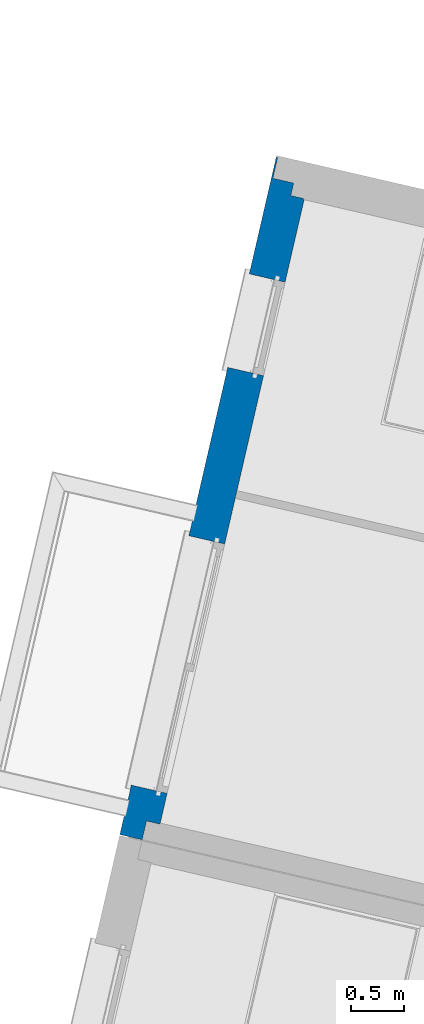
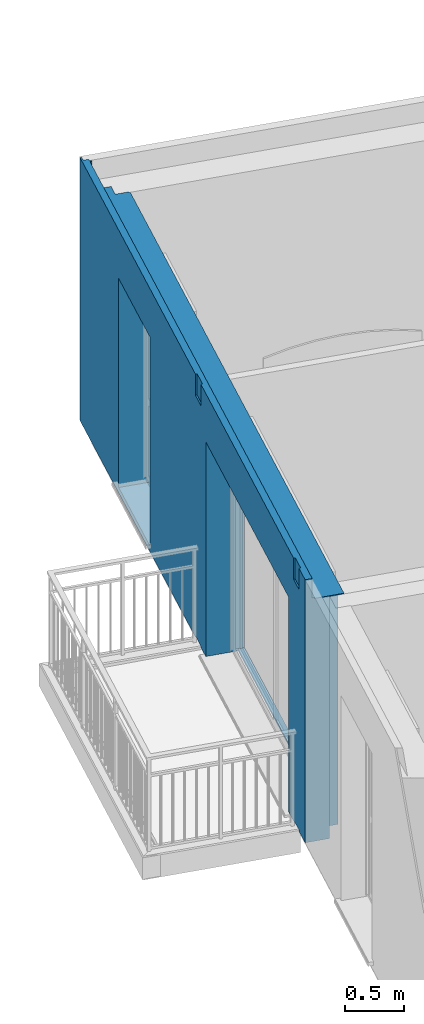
# One storey, part 25 of 91: 1 wall, 2 openings.
"""IFC2X3 building model written with IfcOpenShell, lengths in metres."""

from ifc_helpers import new_model, entity, si_unit, converted_unit, derived_unit, money_unit, direction, frame, origin_with_axes, place, context, subcontext, project, spatial, faceted_brep, material, material_list, type_object, element, save


model = new_model("IFC2X3")

# Units and contexts
model_context = context("Model", 3, precision=1e-05, world=origin_with_axes(), true_north=direction((0.0, 1.0)))
body_context = subcontext(model_context, "Body", "Model", "MODEL_VIEW")
ifc_project = project(units=[si_unit("LENGTHUNIT", "METRE"), si_unit("AREAUNIT", "SQUARE_METRE"), si_unit("VOLUMEUNIT", "CUBIC_METRE"), converted_unit("PLANEANGLEUNIT", "DEGREE", entity("IfcPlaneAngleMeasure", 0.0174532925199), si_unit("PLANEANGLEUNIT", "RADIAN"), dimensions=[0, 0, 0, 0, 0, 0, 0]), si_unit("SOLIDANGLEUNIT", "STERADIAN"), money_unit("EUR"), converted_unit("TIMEUNIT", "Year", entity("IfcTimeMeasure", 31556926.0), si_unit("TIMEUNIT", "SECOND"), dimensions=[0, 0, 1, 0, 0, 0, 0]), si_unit("MASSUNIT", "GRAM", prefix="KILO"), si_unit("THERMODYNAMICTEMPERATUREUNIT", "DEGREE_CELSIUS"), si_unit("LUMINOUSINTENSITYUNIT", "LUMEN"), si_unit("ENERGYUNIT", "JOULE", prefix="MEGA"), derived_unit("THERMALCONDUCTANCEUNIT", [(si_unit("POWERUNIT", "WATT"), 1), (si_unit("LENGTHUNIT", "METRE"), -1), (si_unit("THERMODYNAMICTEMPERATUREUNIT", "KELVIN"), -1)]), derived_unit("SPECIFICHEATCAPACITYUNIT", [(si_unit("ENERGYUNIT", "JOULE"), 1), (si_unit("MASSUNIT", "GRAM", prefix="KILO"), -1), (si_unit("THERMODYNAMICTEMPERATUREUNIT", "KELVIN"), -1)]), derived_unit("MASSDENSITYUNIT", [(si_unit("MASSUNIT", "GRAM", prefix="KILO"), 1), (si_unit("VOLUMEUNIT", "CUBIC_METRE"), -1)])], contexts=[model_context])

# Site, building, storey
site_placement = place(None, origin_with_axes())
site = spatial("IfcSite", under=ifc_project, at=site_placement, Name="Site", CompositionType="ELEMENT")
building_placement = place(site_placement, origin_with_axes())
building = spatial("IfcBuilding", under=site, at=building_placement, Name="Bâtiment", CompositionType="ELEMENT")
storey_placement = place(building_placement, frame((0.0, 0.0, 5.44), z_axis=(0.0, 0.0, 1.0), x_axis=(1.0, 0.0, 0.0)))
storey = spatial("IfcBuildingStorey", under=building, at=storey_placement, Name="R+2", CompositionType="ELEMENT", Elevation=5.44)

# Wall, openings
ifc_material_1 = material(Name="Finition int - Plaque de plâtre")
ifc_material_2 = material(Name="Isolation - Polystyrène extrudé")
ifc_material_3 = material(Name="Bloc ELITHERM")
ifc_material_4 = material(Name="Isolation - Polystyrène expansé")
ifc_material_5 = material(Name="Mortier")
ifc_material_6 = material(Name="Béton cellulaire")
ifc_material_7 = material(Name="Finition ext - Crépis")
ifc_material_list = material_list([ifc_material_1, ifc_material_2, ifc_material_3, ifc_material_4, ifc_material_5, ifc_material_6, ifc_material_7])
wall_type = type_object("IfcWallType", Name="Mur ALKERN + planelle 21 345 x 2720", PredefinedType="USERDEFINED")
wall_placement = place(storey_placement, frame((-15.4467387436, 10.3674335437, 0.0), z_axis=(0.0, 0.0, 1.0), x_axis=(-0.224876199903, -0.974387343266, 0.0)))
wall = element("IfcWall", 1, at=wall_placement, inside=storey, type_object=wall_type, material=ifc_material_list, Name="Mue bloc ALKERN isolé", ObjectType="SOLIDWALL", context=body_context, shape_type="Brep", body=[
    faceted_brep([(6.53486443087, 0.344999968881, 2.5), (6.35486443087, 0.344999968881, 2.5), (6.35486443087, 0.34499998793, 0.0), (0.34499998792, 0.34499998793, 0.0), (0.34499998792, 0.344999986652, 2.51), (6.53486443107, 0.344999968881, 2.51000000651), (2.03864319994, 0.344999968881, 2.22), (2.03864319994, 0.34499998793, 2.4), (1.13864319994, 0.34499998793, 2.4), (1.13864319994, 0.344999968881, 2.22), (1.13864319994, 0.344999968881, 0.12), (2.03864319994, 0.344999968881, 0.12), (6.05872899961, 0.344999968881, 2.22), (6.05872899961, 0.34499998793, 2.4), (3.65872899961, 0.34499998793, 2.4), (3.65872899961, 0.344999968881, 2.22), (3.65872899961, 0.344999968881, 0.02), (6.05872899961, 0.344999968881, 0.02), (6.35486443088, 0.335000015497, 2.5), (6.53486443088, 0.335000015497, 2.5), (6.35486443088, 0.335000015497, 0.0), (0.34499998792, 0.335000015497, 0.0), (0.34499998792, 0.335000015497, 2.51), (6.53486443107, 0.335000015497, 2.51000000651), (2.03864319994, 0.335000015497, 2.22), (2.03864319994, 0.335000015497, 2.4), (1.13864319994, 0.335000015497, 2.4), (1.13864319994, 0.335000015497, 2.22), (1.13864319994, 0.335000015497, 0.12), (2.03864319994, 0.335000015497, 0.12), (6.05872899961, 0.335000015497, 2.22), (6.05872899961, 0.335000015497, 2.4), (3.65872899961, 0.335000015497, 2.4), (3.65872899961, 0.335000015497, 2.22), (3.65872899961, 0.335000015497, 0.02), (6.05872899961, 0.335000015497, 0.02)], [[[0, 1, 2, 3, 4, 5], [6, 7, 8, 9, 10, 11], [12, 13, 14, 15, 16, 17]], [[18, 1, 0, 19]], [[20, 2, 1, 18]], [[3, 2, 20, 21]], [[21, 22, 4, 3]], [[5, 4, 22, 23]], [[23, 19, 0, 5]], [[24, 25, 7, 6]], [[25, 26, 8, 7]], [[26, 27, 9, 8]], [[28, 10, 9, 27]], [[29, 11, 10, 28]], [[11, 29, 24, 6]], [[13, 12, 30, 31]], [[14, 13, 31, 32]], [[15, 14, 32, 33]], [[15, 33, 34, 16]], [[16, 34, 35, 17]], [[30, 12, 17, 35]], [[20, 18, 19, 23, 22, 21], [25, 24, 29, 28, 27, 26], [31, 30, 35, 34, 33, 32]]]),
    faceted_brep([(3.65872899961, 0.245, 0.02), (3.65872899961, 0.286, 0.02), (3.65872899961, 0.335000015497, 0.02), (3.65872899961, 0.335000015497, 2.22), (3.65872899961, 0.245, 2.22), (3.65872899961, 0.215000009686, 0.02), (3.65872899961, 0.215000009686, 0.0), (3.65872899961, 0.286, 0.0), (6.05872899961, 0.286, 0.02), (6.05872899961, 0.335000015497, 0.02), (6.53486443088, 0.335000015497, 2.5), (6.35486443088, 0.335000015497, 2.5), (6.35486443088, 0.335000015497, 0.0), (0.335000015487, 0.335000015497, 0.0), (0.335000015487, 0.335000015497, 2.51), (6.53486443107, 0.335000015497, 2.51000000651), (1.13864319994, 0.335000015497, 2.22), (1.13864319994, 0.335000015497, 0.12), (2.03864319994, 0.335000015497, 0.12), (2.03864319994, 0.335000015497, 2.22), (2.03864319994, 0.335000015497, 2.4), (1.13864319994, 0.335000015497, 2.4), (6.05872899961, 0.335000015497, 2.22), (6.05872899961, 0.335000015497, 2.4), (3.65872899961, 0.335000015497, 2.4), (3.65872899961, 0.215, 2.4), (3.65872899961, 0.215, 2.22), (6.05872899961, 0.215, 2.4), (6.05872899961, 0.215, 2.22), (6.05872899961, 0.215000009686, 0.02), (6.05872899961, 0.215000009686, 0.0), (6.35486443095, 0.215000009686, 0.0), (6.35486443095, 0.215000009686, 2.5), (6.53486443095, 0.215000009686, 2.5), (6.53486443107, 0.215000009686, 2.51000000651), (0.335000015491, 0.215000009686, 2.51), (0.335000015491, 0.215000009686, 0.0), (2.03864319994, 0.215, 2.4), (2.03864319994, 0.215, 2.22), (2.03864319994, 0.215000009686, 0.12), (2.03864319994, 0.215000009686, 0.06), (1.13864319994, 0.215000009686, 0.06), (1.13864319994, 0.215000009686, 0.12), (1.13864319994, 0.215, 2.22), (1.13864319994, 0.215, 2.4), (6.05872899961, 0.286, 0.0), (6.05872899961, 0.245, 0.02), (6.05872899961, 0.245, 2.22), (1.13864319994, 0.245, 2.22), (1.13864319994, 0.245, 0.12), (1.13864319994, 0.286, 0.12), (2.03864319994, 0.286, 0.12), (2.03864319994, 0.245, 0.12), (2.03864319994, 0.245, 2.22), (2.03864319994, 0.286, 0.06), (1.13864319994, 0.286, 0.06)], [[[0, 1, 2, 3, 4]], [[1, 0, 5, 6, 7]], [[1, 8, 9, 2]], [[10, 11, 12, 13, 14, 15], [16, 17, 18, 19, 20, 21], [3, 2, 9, 22, 23, 24]], [[25, 26, 4, 3, 24]], [[5, 0, 4, 26]], [[6, 5, 26, 25, 27, 28, 29, 30, 31, 32, 33, 34, 35, 36], [37, 38, 39, 40, 41, 42, 43, 44]], [[7, 6, 36, 13, 12, 31, 30, 45]], [[8, 1, 7, 45]], [[8, 46, 47, 22, 9]], [[32, 11, 10, 33]], [[31, 12, 11, 32]], [[36, 35, 14, 13]], [[15, 14, 35, 34]], [[34, 33, 10, 15]], [[16, 48, 49, 50, 17]], [[50, 51, 18, 17]], [[19, 18, 51, 52, 53]], [[20, 19, 53, 38, 37]], [[20, 37, 44, 21]], [[16, 21, 44, 43, 48]], [[47, 28, 27, 23, 22]], [[23, 27, 25, 24]], [[46, 29, 28, 47]], [[46, 8, 45, 30, 29]], [[52, 39, 38, 53]], [[40, 39, 52, 51, 54]], [[41, 40, 54, 55]], [[41, 55, 50, 49, 42]], [[42, 49, 48, 43]], [[51, 50, 55, 54]]]),
    faceted_brep([(3.65872899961, 0.214999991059, 0.02), (3.65872899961, 0.214999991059, 0.0), (0.214999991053, 0.214999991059, 0.0), (0.214999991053, 0.214999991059, 2.50999999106), (6.53486443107, 0.214999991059, 2.51000000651), (6.5348644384, 0.214999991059, 2.5), (6.5348644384, 0.214999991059, 0.0), (6.05872899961, 0.214999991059, 0.0), (6.05872899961, 0.214999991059, 0.02), (6.05872899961, 0.214999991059, 2.22), (3.65872899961, 0.214999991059, 2.22), (2.03864319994, 0.214999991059, 0.06), (2.03864319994, 0.214999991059, 0.12), (2.03864319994, 0.214999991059, 2.22), (1.13864319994, 0.214999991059, 2.22), (1.13864319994, 0.214999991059, 0.12), (1.13864319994, 0.214999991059, 0.06), (3.65872899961, 0.015, 0.02), (3.65872899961, 0.015, 0.0), (0.214999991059, 0.015, 0.0), (0.214999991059, 0.015, 2.50999999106), (0.214999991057, 0.0829999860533, 2.50999999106), (6.53486443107, 0.0829999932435, 2.51000000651), (6.53486443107, 0.015, 2.50999999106), (6.53486443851, 0.015, 2.5), (6.53486443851, 0.015, 0.0), (6.05872899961, 0.015, 0.0), (6.05872899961, 0.015, 0.02), (6.05872899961, 0.015, 2.22), (3.65872899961, 0.015, 2.22), (2.03864319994, 0.015, 0.06), (2.03864319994, 0.015, 0.12), (2.03864319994, 0.015, 2.22), (1.13864319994, 0.015, 2.22), (1.13864319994, 0.015, 0.12), (1.13864319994, 0.015, 0.06)], [[[0, 1, 2, 3, 4, 5, 6, 7, 8, 9, 10], [11, 12, 13, 14, 15, 16]], [[1, 0, 17, 18]], [[1, 18, 19, 2]], [[19, 20, 21, 3, 2]], [[3, 21, 22, 4]], [[4, 22, 23, 24, 5]], [[25, 6, 5, 24]], [[26, 7, 6, 25]], [[27, 8, 7, 26]], [[8, 27, 28, 9]], [[9, 28, 29, 10]], [[17, 0, 10, 29]], [[11, 30, 31, 12]], [[32, 13, 12, 31]], [[33, 14, 13, 32]], [[14, 33, 34, 15]], [[34, 35, 16, 15]], [[35, 30, 11, 16]], [[18, 17, 29, 28, 27, 26, 25, 24, 23, 20, 19], [35, 34, 33, 32, 31, 30]], [[21, 20, 23, 22]]]),
    faceted_brep([(0.0999380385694, 0.0629999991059, 2.72000000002), (0.0999380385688, 0.0829999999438, 2.72000000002), (0.0830000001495, 0.0829999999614, 2.72), (0.0830000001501, 0.0630000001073, 2.72), (0.0999380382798, 0.0829999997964, 2.51999999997), (0.0999380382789, 0.0629999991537, 2.51999999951), (0.0830000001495, 0.0829999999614, 2.51999999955), (0.0830000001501, 0.0630000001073, 2.51999999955)], [[[0, 1, 2, 3]], [[4, 1, 0, 5]], [[1, 4, 6, 2]], [[7, 3, 2, 6]], [[5, 0, 3, 7]], [[4, 5, 7, 6]]]),
    faceted_brep([(0.0829999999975, 0.0829999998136, 2.51), (0.0829999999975, 0.0829999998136, 2.52), (6.53486443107, 0.0829999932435, 2.51999998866), (6.53486443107, 0.0829999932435, 2.51000000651), (0.0829999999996, 0.015, 2.52), (0.0829999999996, 0.015, 2.51), (6.53486443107, 0.015, 2.52), (6.53486443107, 0.015, 2.51)], [[[0, 1, 2, 3]], [[4, 1, 0, 5]], [[1, 4, 6, 2]], [[7, 3, 2, 6]], [[5, 0, 3, 7]], [[4, 5, 7, 6]]]),
    faceted_brep([(0.0629999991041, 0.0629999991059, 2.51999999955), (0.0629999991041, 0.0629999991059, 2.72), (6.53486443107, 0.0629999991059, 2.72000000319), (6.53486443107, 0.0629999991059, 2.51999999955), (0.0629999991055, 0.015, 2.72), (0.0629999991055, 0.015, 2.51999999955), (6.53486443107, 0.015, 2.71999999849), (6.53486443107, 0.015, 2.51999999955)], [[[0, 1, 2, 3]], [[4, 1, 0, 5]], [[1, 4, 6, 2]], [[7, 3, 2, 6]], [[5, 0, 3, 7]], [[4, 5, 7, 6]]]),
    faceted_brep([(3.65872899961, 0.0150000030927, 0.02), (3.65872899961, 0.0150000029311, 0.0), (3.51872899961, 0.0150000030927, 0.0), (3.50874847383, 0.0150000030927, 0.0106237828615), (3.3687095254, 0.0150000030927, 0.0193762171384), (3.35872899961, 0.0150000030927, 0.01), (3.35872899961, 0.0150000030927, 0.0), (0.0149999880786, 0.0149999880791, 0.0), (0.0149999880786, 0.0149999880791, 2.50999999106), (0.0149999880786, 0.0149999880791, 2.51999999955), (0.0149999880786, 0.0149999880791, 2.72), (3.35872899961, 0.0150000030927, 2.72), (3.35872899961, 0.0150000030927, 2.51999999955), (3.35872899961, 0.0150000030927, 2.50999999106), (3.35872899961, 0.0150000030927, 2.50872065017), (3.35872899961, 0.0150000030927, 2.5), (3.37372899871, 0.0150000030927, 2.5), (3.39346998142, 0.0150000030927, 2.5), (3.51872899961, 0.0150000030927, 2.5), (3.51872899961, 0.0150000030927, 2.50872065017), (3.51872899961, 0.0150000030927, 2.50999999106), (3.51872899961, 0.0150000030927, 2.51999999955), (3.51872899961, 0.0150000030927, 2.72), (6.19872899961, 0.015, 2.72), (6.19872899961, 0.015, 2.51999999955), (6.19872899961, 0.015, 2.50999999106), (6.19872899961, 0.015, 2.50872065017), (6.19872899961, 0.015, 2.5), (6.32398801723, 0.015, 2.5), (6.34372899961, 0.015, 2.5), (6.35872899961, 0.015, 2.5), (6.35872899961, 0.015, 2.50872065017), (6.35872899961, 0.015, 2.50999999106), (6.35872899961, 0.015, 2.51999999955), (6.35872899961, 0.015, 2.72), (6.53486443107, 0.0149999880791, 2.71999999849), (6.53486443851, 0.0149999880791, 2.5), (6.53486443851, 0.0149999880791, 0.0), (6.35872899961, 0.015, 0.0), (6.35872899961, 0.015, 0.01), (6.34874847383, 0.015, 0.0193762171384), (6.2087095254, 0.015, 0.0106237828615), (6.19872899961, 0.015, 0.0), (6.05872899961, 0.0150000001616, 0.0), (6.05872899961, 0.0150000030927, 0.02), (6.05872899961, 0.0150000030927, 2.22), (3.65872899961, 0.0150000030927, 2.22), (2.03864319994, 0.0150000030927, 0.06), (2.03864319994, 0.0150000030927, 0.12), (2.03864319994, 0.0150000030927, 2.22), (1.13864319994, 0.0150000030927, 2.22), (1.13864319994, 0.0150000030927, 0.12), (1.13864319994, 0.0150000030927, 0.06), (3.65872899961, 0.0, 0.02), (3.65872899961, 0.0, 0.0), (3.51872899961, 0.0, 0.0), (3.50874847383, 0.0, 0.0106237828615), (3.3687095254, 0.0, 0.0193762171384), (3.35872899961, 0.0, 0.01), (3.35872899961, 0.0, 0.0), (0.0149999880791, 0.0, 0.0), (0.0149999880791, 0.0, 2.50999999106), (0.0149999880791, 0.0, 2.51999999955), (0.0149999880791, 0.0, 2.72), (3.35872899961, 0.0, 2.72), (3.35872899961, 0.0, 2.51999999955), (3.35872899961, 0.0, 2.50999999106), (3.35872899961, 0.0, 2.50872065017), (3.35872899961, 0.0, 2.5), (3.37372899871, 0.0, 2.5), (3.39346998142, 0.0, 2.5), (3.51872899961, 0.0, 2.5), (3.51872899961, 0.0, 2.50872065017), (3.51872899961, 0.0, 2.50999999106), (3.51872899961, 0.0, 2.51999999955), (3.51872899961, 0.0, 2.72), (6.19872899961, 1.18102860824e-10, 2.72), (6.19872899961, 0.0, 2.51999999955), (6.19872899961, 0.0, 2.50999999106), (6.19872899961, 0.0, 2.50872065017), (6.19872899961, 0.0, 2.5), (6.32398801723, 0.0, 2.5), (6.34372899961, 0.0, 2.5), (6.35872899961, 0.0, 2.5), (6.35872899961, 0.0, 2.50872065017), (6.35872899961, 0.0, 2.50999999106), (6.35872899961, 0.0, 2.51999999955), (6.35872899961, 1.21104903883e-10, 2.72), (6.53486443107, 1.24405374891e-10, 2.71999999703), (6.53486443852, 1.24405374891e-10, 2.5), (6.53486443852, 0.0, 0.0), (6.35872899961, 0.0, 0.0), (6.35872899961, 0.0, 0.01), (6.34874847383, 0.0, 0.0193762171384), (6.2087095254, 0.0, 0.0106237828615), (6.19872899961, 0.0, 0.0), (6.05872899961, 0.0, 0.0), (6.05872899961, 0.0, 0.02), (6.05872899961, 0.0, 2.22), (3.65872899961, 0.0, 2.22), (2.03864319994, 0.0, 0.06), (2.03864319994, 0.0, 0.12), (2.03864319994, 0.0, 2.22), (1.13864319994, 0.0, 2.22), (1.13864319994, 0.0, 0.12), (1.13864319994, 0.0, 0.06)], [[[0, 1, 2, 3, 4, 5, 6, 7, 8, 9, 10, 11, 12, 13, 14, 15, 16, 17, 18, 19, 20, 21, 22, 23, 24, 25, 26, 27, 28, 29, 30, 31, 32, 33, 34, 35, 36, 37, 38, 39, 40, 41, 42, 43, 44, 45, 46], [47, 48, 49, 50, 51, 52]], [[1, 0, 53, 54]], [[1, 54, 55, 2]], [[56, 3, 2, 55]], [[57, 4, 3, 56]], [[58, 5, 4, 57]], [[59, 6, 5, 58]], [[7, 6, 59, 60]], [[60, 61, 8, 7]], [[61, 62, 9, 8]], [[62, 63, 10, 9]], [[63, 64, 11, 10]], [[65, 12, 11, 64]], [[13, 12, 65, 66]], [[14, 13, 66, 67]], [[15, 14, 67, 68]], [[68, 69, 16, 15]], [[69, 70, 17, 16]], [[71, 18, 17, 70]], [[71, 72, 19, 18]], [[72, 73, 20, 19]], [[73, 74, 21, 20]], [[74, 75, 22, 21]], [[75, 76, 23, 22]], [[77, 24, 23, 76]], [[25, 24, 77, 78]], [[26, 25, 78, 79]], [[27, 26, 79, 80]], [[80, 81, 28, 27]], [[81, 82, 29, 28]], [[83, 30, 29, 82]], [[83, 84, 31, 30]], [[84, 85, 32, 31]], [[85, 86, 33, 32]], [[86, 87, 34, 33]], [[35, 34, 87, 88]], [[35, 88, 89, 36]], [[89, 90, 37, 36]], [[90, 91, 38, 37]], [[92, 39, 38, 91]], [[93, 40, 39, 92]], [[94, 41, 40, 93]], [[94, 95, 42, 41]], [[96, 43, 42, 95]], [[97, 44, 43, 96]], [[44, 97, 98, 45]], [[45, 98, 99, 46]], [[53, 0, 46, 99]], [[47, 100, 101, 48]], [[102, 49, 48, 101]], [[103, 50, 49, 102]], [[50, 103, 104, 51]], [[104, 105, 52, 51]], [[105, 100, 47, 52]], [[54, 53, 99, 98, 97, 96, 95, 94, 93, 92, 91, 90, 89, 88, 87, 86, 85, 84, 83, 82, 81, 80, 79, 78, 77, 76, 75, 74, 73, 72, 71, 70, 69, 68, 67, 66, 65, 64, 63, 62, 61, 60, 59, 58, 57, 56, 55], [105, 104, 103, 102, 101, 100]]]),
])
opening_1_placement = place(wall_placement, frame((1.58864319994, 0.0, 0.12), z_axis=(0.0, 0.0, 1.0), x_axis=(1.0, 0.0, 0.0)))
element("IfcOpeningElement", 2, at=opening_1_placement, cuts=wall, Name="MEN 74", context=body_context, shape_type="Brep", body=[
    faceted_brep([(-0.45, 0.83499998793, 0.0), (0.45, 0.83499998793, 0.0), (0.45, 0.245, 0.0), (-0.45, 0.245, 0.0), (-0.45, 0.83499998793, 2.1), (0.45, 0.83499998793, 2.1), (0.45, 0.245, 2.1), (-0.45, 0.245, 2.1)], [[[0, 1, 2, 3]], [[0, 4, 5, 1]], [[1, 5, 6, 2]], [[3, 2, 6, 7]], [[4, 0, 3, 7]], [[5, 4, 7, 6]]]),
    faceted_brep([(-0.45, -0.34499998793, 0.0), (-0.45, -0.34499998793, 2.1), (-0.45, 0.245, 2.1), (-0.45, 0.245, 0.0), (0.45, -0.34499998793, 0.0), (0.45, -0.34499998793, 2.1), (0.45, 0.245, 2.1), (0.45, 0.245, 0.0)], [[[0, 1, 2, 3]], [[0, 4, 5, 1]], [[1, 5, 6, 2]], [[3, 2, 6, 7]], [[4, 0, 3, 7]], [[5, 4, 7, 6]]]),
    faceted_brep([(-0.45, -0.34499998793, 0.0), (-0.45, -0.34499998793, 2.1), (-0.45, 0.245, 2.1), (-0.45, 0.245, 0.0), (0.45, -0.34499998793, 0.0), (0.45, -0.34499998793, 2.1), (0.45, 0.245, 2.1), (0.45, 0.245, 0.0)], [[[0, 1, 2, 3]], [[0, 4, 5, 1]], [[1, 5, 6, 2]], [[3, 2, 6, 7]], [[4, 0, 3, 7]], [[5, 4, 7, 6]]]),
    faceted_brep([(-0.45, 0.80499998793, 2.1), (0.45, 0.80499998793, 2.1), (0.45, 0.215, 2.1), (-0.45, 0.215, 2.1), (-0.45, 0.80499998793, 2.28), (0.45, 0.80499998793, 2.28), (0.45, 0.215, 2.28), (-0.45, 0.215, 2.28)], [[[0, 1, 2, 3]], [[0, 4, 5, 1]], [[1, 5, 6, 2]], [[3, 2, 6, 7]], [[4, 0, 3, 7]], [[5, 4, 7, 6]]]),
    faceted_brep([(-0.45, -0.30399998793, 0.0), (0.45, -0.30399998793, 0.0), (0.45, 0.286, 0.0), (-0.45, 0.286, 0.0), (-0.45, -0.30399998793, -0.06), (0.45, -0.30399998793, -0.06), (0.45, 0.286, -0.06), (-0.45, 0.286, -0.06)], [[[0, 1, 2, 3]], [[0, 4, 5, 1]], [[1, 5, 6, 2]], [[3, 2, 6, 7]], [[4, 0, 3, 7]], [[5, 4, 7, 6]]]),
])
opening_2_placement = place(wall_placement, frame((4.85872899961, 0.0, 0.02), z_axis=(0.0, 0.0, 1.0), x_axis=(1.0, 0.0, 0.0)))
element("IfcOpeningElement", 3, at=opening_2_placement, cuts=wall, Name="MEN 75", context=body_context, shape_type="Brep", body=[
    faceted_brep([(1.2, 0.245, 0.0), (-1.2, 0.245, 0.0), (-1.2, 0.83499998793, 0.0), (1.2, 0.83499998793, 0.0), (1.2, 0.245, 2.2), (-1.2, 0.245, 2.2), (-1.2, 0.83499998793, 2.2), (1.2, 0.83499998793, 2.2)], [[[0, 1, 2, 3]], [[0, 4, 5, 1]], [[1, 5, 6, 2]], [[3, 2, 6, 7]], [[4, 0, 3, 7]], [[5, 4, 7, 6]]]),
    faceted_brep([(1.2, 0.245, 0.0), (1.2, 0.245, 2.2), (1.2, -0.34499998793, 2.2), (1.2, -0.34499998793, 0.0), (-1.2, 0.245, 0.0), (-1.2, 0.245, 2.2), (-1.2, -0.34499998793, 2.2), (-1.2, -0.34499998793, 0.0)], [[[0, 1, 2, 3]], [[0, 4, 5, 1]], [[1, 5, 6, 2]], [[3, 2, 6, 7]], [[4, 0, 3, 7]], [[5, 4, 7, 6]]]),
    faceted_brep([(1.2, 0.245, 0.0), (1.2, 0.245, 2.2), (1.2, -0.34499998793, 2.2), (1.2, -0.34499998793, 0.0), (-1.2, 0.245, 0.0), (-1.2, 0.245, 2.2), (-1.2, -0.34499998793, 2.2), (-1.2, -0.34499998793, 0.0)], [[[0, 1, 2, 3]], [[0, 4, 5, 1]], [[1, 5, 6, 2]], [[3, 2, 6, 7]], [[4, 0, 3, 7]], [[5, 4, 7, 6]]]),
    faceted_brep([(1.2, 0.215, 2.2), (-1.2, 0.215, 2.2), (-1.2, 0.80499998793, 2.2), (1.2, 0.80499998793, 2.2), (1.2, 0.215, 2.38), (-1.2, 0.215, 2.38), (-1.2, 0.80499998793, 2.38), (1.2, 0.80499998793, 2.38)], [[[0, 1, 2, 3]], [[0, 4, 5, 1]], [[1, 5, 6, 2]], [[3, 2, 6, 7]], [[4, 0, 3, 7]], [[5, 4, 7, 6]]]),
    faceted_brep([(1.2, 0.286, 0.0), (-1.2, 0.286, 0.0), (-1.2, -0.30399998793, 0.0), (1.2, -0.30399998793, 0.0), (1.2, 0.286, -0.06), (-1.2, 0.286, -0.06), (-1.2, -0.30399998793, -0.06), (1.2, -0.30399998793, -0.06)], [[[0, 1, 2, 3]], [[0, 4, 5, 1]], [[1, 5, 6, 2]], [[3, 2, 6, 7]], [[4, 0, 3, 7]], [[5, 4, 7, 6]]]),
])

save(model, "model.ifc")
